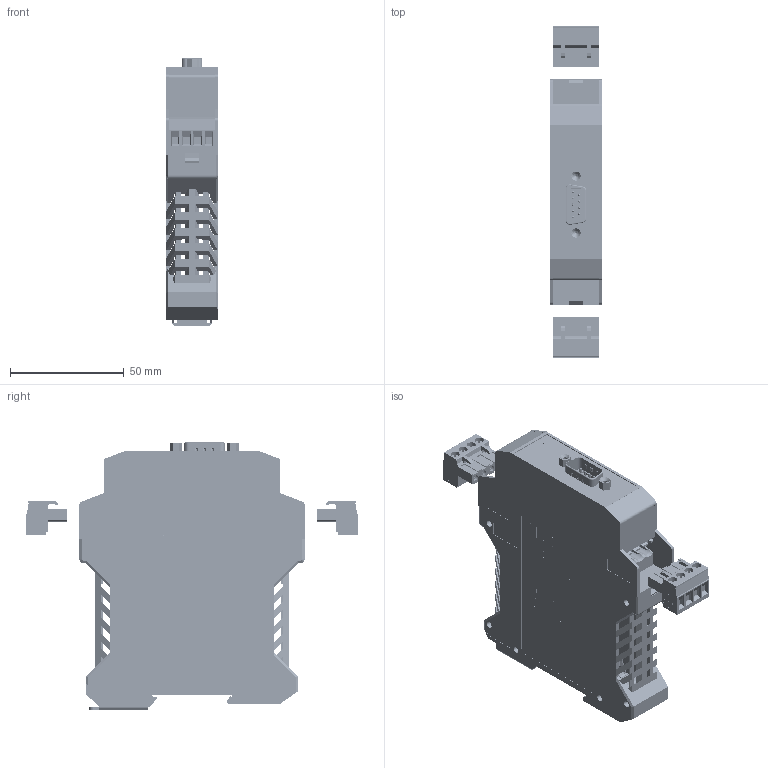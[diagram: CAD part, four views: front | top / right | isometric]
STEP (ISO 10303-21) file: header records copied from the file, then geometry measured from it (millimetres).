
FILE_DESCRIPTION(('STEP AP203'), '1');
FILE_NAME('鍛鍧 BCI-1-1_', '', ('UNSPECIFIED'), ('UNSPECIFIED'), 'ASCON STEP Converter 1.3', 'ASCON Math Kernel', '');
FILE_SCHEMA(('CONFIG_CONTROL_DESIGN'));
Length unit declared in the file: millimetre
Products named in the file (34): ME_22.5_UT_FE_H.Select__00393870; ME_22.5_UTL_H_H.Select__00392903; ME_22.5_UTR_H_H.Select__00393036; ME_Verriegelungshaken_H.Select__00446697; ME_FUNKTIONSERDKONTAKT_H.Select__00314172; Fussriegel_17.5_L30_H.Select__00315466; MSTBO_2_5_4-G1L_H.Select__00364411; MSTBO_2_5_4-G1R_H.Select__00364505; ч蜱齁罻; ME_B-22.5_MSTBO_H.Select__00296524; 71069939_1; 71069939_2; 71069939_3; 71069939_4; 71069939_5; 71069939_6; 71069939_7; 71069939_8; 71069939_9; 71069939_10; 71069939_11; 71069939_12; 71069939_13; 71069939_14; 71069939_15; 71069939_16; 71069939_17; MSTBT_2.5-4-ST
Assembly tree (37 placements, depth 5):
  (unnamed)
    (unnamed)
      (unnamed)
        ME_22.5_UT_FE_H.Select__00393870
          ME_22.5_UTL_H_H.Select__00392903
          ME_22.5_UTR_H_H.Select__00393036
          ME_Verriegelungshaken_H.Select__00446697  x2
          ME_FUNKTIONSERDKONTAKT_H.Select__00314172
          Fussriegel_17.5_L30_H.Select__00315466
      (unnamed)
        MSTBO_2_5_4-G1L_H.Select__00364411
        MSTBO_2_5_4-G1R_H.Select__00364505
        ч蜱齁罻  x2
          ME_B-22.5_MSTBO_H.Select__00296524
        (unnamed)
          71069939_1
          71069939_2
          71069939_3
          71069939_4
          71069939_5
          71069939_6
          71069939_7
          71069939_8
          71069939_9
          71069939_10
          71069939_11
          71069939_12
          71069939_13
          71069939_14
          71069939_15
          71069939_16
          71069939_17  x2
    MSTBT_2.5-4-ST  x2
      MSTBT_2.5-4-ST
Bounding box: 22.6 x 145.9 x 117.4 mm (x, y, z)
Volume: 63349.5 mm3; surface area: 95996.5 mm2
Topology: 34 solids, 35 shells, 11824 faces, 33516 edges, 22214 vertices
Faces by surface type: plane 7377, cylinder 4223, extrusion 176, cone 27, torus 12, sphere 9
Full cylindrical faces by diameter (mm): 0.813 x3, 0.853 x3, 1 x18, 1.2 x1, 1.353 x8, 1.4 x16, 2 x6, 2.013 x4, 2.1 x3, 2.5 x2, 2.8 x20, 3 x12, 3.783 x8, 3.8 x8, 4 x8
Entity records: 451529 total; most frequent: CARTESIAN_POINT 67354, ORIENTED_EDGE 62450, DIRECTION 60986, EDGE_CURVE 31225, VECTOR 22698, LINE 22559, VERTEX_POINT 20787, AXIS2_PLACEMENT_3D 19144
